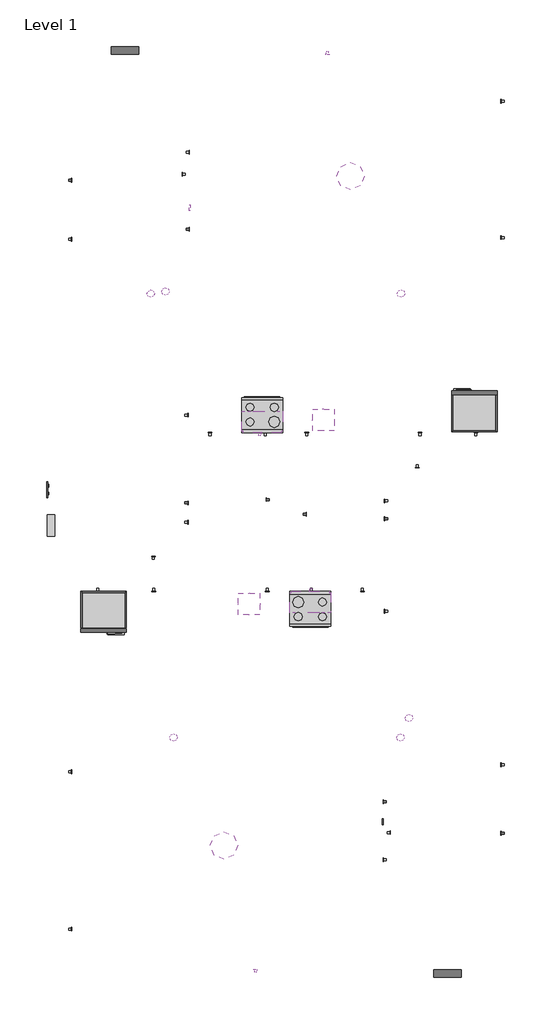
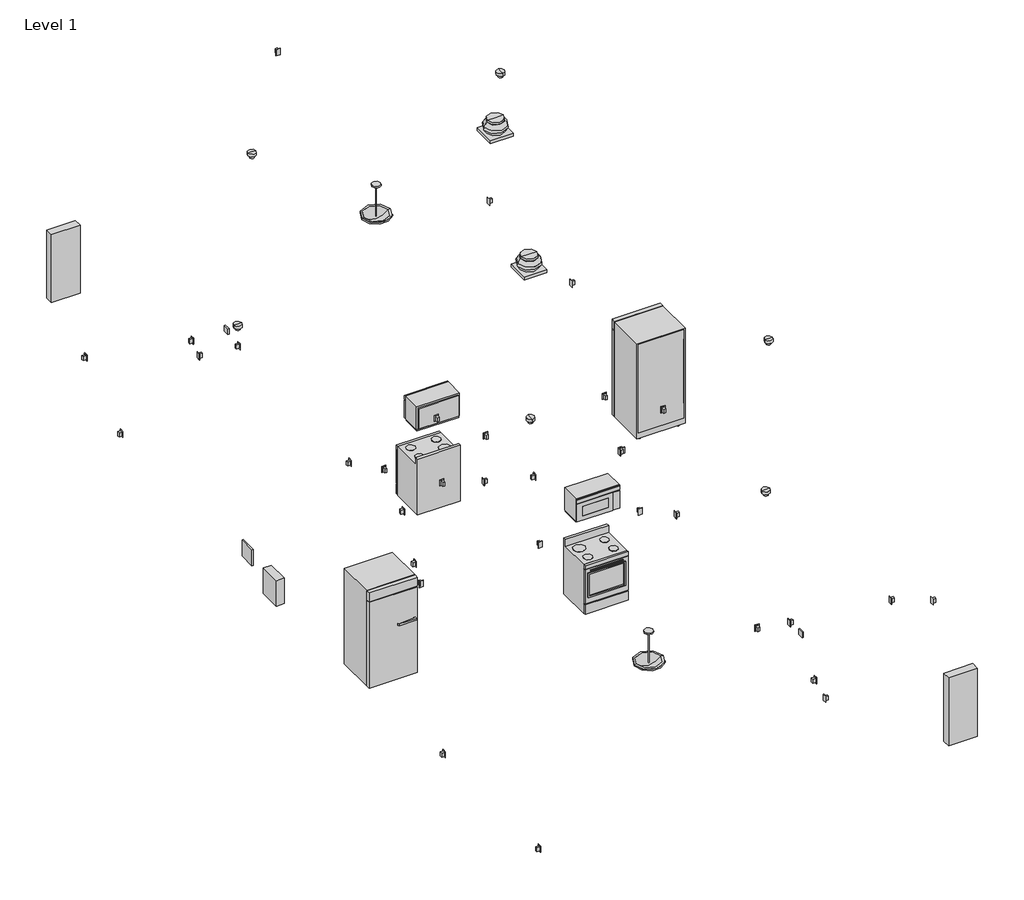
# One storey, incomplete: 30 outlets, 11 electric appliances, 8 light fixtures, 6 proxies, 3 electric distribution boards, 2 unitary equipment elements.
"""IFC4 building model written with IfcOpenShell, lengths in millimetres."""

from ifc_helpers import new_model, si_unit, origin, place, context, project, spatial, transform, mapped, element, save
from components import m_smoke_detector_smoke_detector_d0acf9f2, m_microwave_760_x_400_x_450mm_fc9afc05, m_range_760_x_650mm_27bf323b, m_refrigerator_850_x_760mm_174fd30e, m_telephone_outlet_367a9a66, m_telephone_terminal_board_ttb_300x300_b62f54d5, m_fire_alarm_control_panel_400x475_f39818d3, m_lighting_and_appliance_panelboard_208v_mlo_400_a_7f70f8aa, m_duplex_receptacle_duplex_receptacle_10251bba, m_pendant_light_hemisphere_150w_120v_8bc6cad5, m_thermostat_thermostat_b920d14f, unitary_equipment_b826a94b

model = new_model("IFC4")

# Units and contexts
model_context = context("Model", 3, world=origin())
ifc_project = project(units=[si_unit("LENGTHUNIT", "METRE", prefix="MILLI")], contexts=[model_context])

# Site, building, storey
site = spatial("IfcSite", under=ifc_project)
building = spatial("IfcBuilding", under=site)
storey = spatial("IfcBuildingStorey", under=building, Name="Level 1", Elevation=0.0)

# Proxies
placement = place(None, origin())
m_smoke_detector_smoke_detector_shape = m_smoke_detector_smoke_detector_d0acf9f2(model_context)
element("IfcBuildingElementProxy", 1, Name="M_Smoke Detector : Smoke Detector", ObjectType="M_Smoke Detector : Smoke Detector", at=placement, inside=storey, context=model_context, shape_type="MappedRepresentation", body=[
    mapped(m_smoke_detector_smoke_detector_shape, transform((6675.6090537, -12719.686144, 2600.0), x_axis=(1.0, 0.0, 0.0), y_axis=(0.0, -1.0, 0.0), z_axis=(0.0, 0.0, -1.0))),
])
element("IfcBuildingElementProxy", 2, Name="M_Smoke Detector : Smoke Detector", ObjectType="M_Smoke Detector : Smoke Detector", at=placement, inside=storey, context=model_context, shape_type="MappedRepresentation", body=[
    mapped(m_smoke_detector_smoke_detector_shape, transform((6515.1269473, -13083.9983456, 5700.0), x_axis=(-1.0, 0.0, 0.0), y_axis=(0.0, 1.0, 0.0), z_axis=(0.0, 0.0, -1.0))),
])
element("IfcBuildingElementProxy", 3, Name="M_Smoke Detector : Smoke Detector", ObjectType="M_Smoke Detector : Smoke Detector", at=placement, inside=storey, context=model_context, shape_type="MappedRepresentation", body=[
    mapped(m_smoke_detector_smoke_detector_shape, transform((2312.5080389, -13079.049566, 5700.0), x_axis=(0.0, 1.0, 0.0), y_axis=(1.0, 0.0, 0.0), z_axis=(0.0, 0.0, -1.0))),
])
element("IfcBuildingElementProxy", 4, Name="M_Smoke Detector : Smoke Detector", ObjectType="M_Smoke Detector : Smoke Detector", at=placement, inside=storey, context=model_context, shape_type="MappedRepresentation", body=[
    mapped(m_smoke_detector_smoke_detector_shape, transform((2160.7989347, -4815.2434784, 5700.0), x_axis=(1.0, 0.0, 0.0), y_axis=(0.0, -1.0, 0.0), z_axis=(0.0, 0.0, -1.0))),
])
element("IfcBuildingElementProxy", 5, Name="M_Smoke Detector : Smoke Detector", ObjectType="M_Smoke Detector : Smoke Detector", at=placement, inside=storey, context=model_context, shape_type="MappedRepresentation", body=[
    mapped(m_smoke_detector_smoke_detector_shape, transform((6529.2851038, -4853.0779496, 5700.0), x_axis=(0.0, -1.0, 0.0), y_axis=(-1.0, 0.0, 0.0), z_axis=(0.0, 0.0, -1.0))),
])
element("IfcBuildingElementProxy", 6, Name="M_Smoke Detector : Smoke Detector", ObjectType="M_Smoke Detector : Smoke Detector", at=placement, inside=storey, context=model_context, shape_type="MappedRepresentation", body=[
    mapped(m_smoke_detector_smoke_detector_shape, transform((1888.1128715, -4853.1375739, 2600.0), x_axis=(1.0, 0.0, 0.0), y_axis=(0.0, -1.0, 0.0), z_axis=(0.0, 0.0, -1.0))),
])

# Electric appliances
m_microwave_760_x_400_x_450mm_shape = m_microwave_760_x_400_x_450mm_fc9afc05(model_context)
element("IfcElectricAppliance", 7, ObjectType="M_Microwave : 760 x 400 x 450mm", at=placement, inside=storey, context=model_context, shape_type="MappedRepresentation", body=[
    mapped(m_microwave_760_x_400_x_450mm_shape, transform((4454.2928773, -7583.0805058, 635.6), x_axis=(-1.0, 0.0, 0.0), y_axis=(0.0, -1.0, 0.0), z_axis=(0.0, 0.0, 1.0))),
])
element("IfcElectricAppliance", 8, ObjectType="M_Microwave : 760 x 400 x 450mm", at=placement, inside=storey, context=model_context, shape_type="MappedRepresentation", body=[
    mapped(m_microwave_760_x_400_x_450mm_shape, transform((4345.7071227, -10216.9194942, 635.6), x_axis=(1.0, 0.0, 0.0), y_axis=(0.0, 1.0, 0.0), z_axis=(0.0, 0.0, 1.0))),
])
m_range_760_x_650mm_shape = m_range_760_x_650mm_27bf323b(model_context)
element("IfcElectricAppliance", 9, ObjectType="M_Range : 760 x 650mm", at=placement, inside=storey, context=model_context, shape_type="MappedRepresentation", body=[
    mapped(m_range_760_x_650mm_shape, transform((4334.0, -6780.0, 0.0), x_axis=(-1.0, 0.0, 0.0), y_axis=(0.0, -1.0, 0.0), z_axis=(0.0, 0.0, 1.0))),
])
element("IfcElectricAppliance", 10, ObjectType="M_Range : 760 x 650mm", at=placement, inside=storey, context=model_context, shape_type="MappedRepresentation", body=[
    mapped(m_range_760_x_650mm_shape, transform((4466.0, -11020.0, 0.0), x_axis=(1.0, 0.0, 0.0), y_axis=(0.0, 1.0, 0.0), z_axis=(0.0, 0.0, 1.0))),
])
m_refrigerator_850_x_760mm_shape = m_refrigerator_850_x_760mm_174fd30e(model_context)
element("IfcElectricAppliance", 11, ObjectType="M_Refrigerator : 850 x 760mm", at=placement, inside=storey, context=model_context, shape_type="MappedRepresentation", body=[
    mapped(m_refrigerator_850_x_760mm_shape, transform((1066.8937952, -10716.2150902, 0.0), x_axis=(1.0, 0.0, 0.0), y_axis=(0.0, 1.0, 0.0), z_axis=(0.0, 0.0, 1.0))),
])
element("IfcElectricAppliance", 12, ObjectType="M_Refrigerator : 850 x 760mm", at=placement, inside=storey, context=model_context, shape_type="MappedRepresentation", body=[
    mapped(m_refrigerator_850_x_760mm_shape, transform((7835.027305, -7069.3683128, 0.0), x_axis=(-0.9999999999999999, 0.0, 0.0), y_axis=(0.0, -0.9999999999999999, 0.0), z_axis=(0.0, 0.0, 1.0))),
])
m_telephone_outlet_shape = m_telephone_outlet_367a9a66(model_context)
element("IfcElectricAppliance", 13, ObjectType="M_Telephone Outlet : Telophone Outlet", at=placement, inside=storey, context=model_context, shape_type="MappedRepresentation", body=[
    mapped(m_telephone_outlet_shape, transform((6226.0, -10741.7079049, 1087.197635), x_axis=(0.0, -1.0, 0.0), y_axis=(0.0, 0.0, 1.0), z_axis=(-1.0, 0.0, 0.0))),
])
element("IfcElectricAppliance", 14, ObjectType="M_Telephone Outlet : Telophone Outlet", at=placement, inside=storey, context=model_context, shape_type="MappedRepresentation", body=[
    mapped(m_telephone_outlet_shape, transform((2574.0, -7102.9828312, 1136.4176898), x_axis=(0.0, 1.0, 0.0), y_axis=(0.0, 0.0, 1.0), z_axis=(1.0, 0.0, 0.0))),
])
element("IfcElectricAppliance", 15, ObjectType="M_Telephone Outlet : Telophone Outlet", at=placement, inside=storey, context=model_context, shape_type="MappedRepresentation", body=[
    mapped(m_telephone_outlet_shape, transform((5160.1954576, -417.0, 3847.9435036), x_axis=(1.0, 0.0, 0.0), y_axis=(0.0, 0.0, 1.0), z_axis=(0.0, -1.0, 0.0))),
])
element("IfcElectricAppliance", 16, ObjectType="M_Telephone Outlet : Telophone Outlet", at=placement, inside=storey, context=model_context, shape_type="MappedRepresentation", body=[
    mapped(m_telephone_outlet_shape, transform((3830.8739437, -17383.0, 3842.2238304), x_axis=(-1.0, 0.0, 0.0), y_axis=(0.0, 0.0, 1.0), z_axis=(0.0, 1.0, 0.0))),
])
m_telephone_terminal_board_ttb_300x300_shape = m_telephone_terminal_board_ttb_300x300_b62f54d5(model_context)
element("IfcElectricAppliance", 17, ObjectType="M_Telephone Terminal Board : TTB 300x300", at=placement, inside=storey, context=model_context, shape_type="MappedRepresentation", body=[
    mapped(m_telephone_terminal_board_ttb_300x300_shape, transform((0.0, -8485.6252683, 1200.0), x_axis=(0.0, -1.0, 0.0), y_axis=(0.0, 0.0, 1.0), z_axis=(-1.0, 0.0, 0.0))),
])

# Electric distribution boards
m_fire_alarm_control_panel_400x475_shape = m_fire_alarm_control_panel_400x475_f39818d3(model_context)
element("IfcElectricDistributionBoard", 18, ObjectType="M_Fire Alarm Control Panel : 400x475", at=placement, inside=storey, context=model_context, shape_type="MappedRepresentation", body=[
    mapped(m_fire_alarm_control_panel_400x475_shape, transform((0.0, -9153.578125, 1200.0), x_axis=(0.0, -1.0, 0.0), y_axis=(0.0, 0.0, 1.0), z_axis=(-1.0, 0.0, 0.0))),
])
m_lighting_and_appliance_panelboard_208v_mlo_400_a_shape = m_lighting_and_appliance_panelboard_208v_mlo_400_a_7f70f8aa(model_context)
element("IfcElectricDistributionBoard", 19, ObjectType="M_Lighting and Appliance Panelboard - 208V MLO : 400 A", at=placement, inside=storey, context=model_context, shape_type="MappedRepresentation", body=[
    mapped(m_lighting_and_appliance_panelboard_208v_mlo_400_a_shape, transform((7387.2656133, -17383.0, 1619.1), x_axis=(-1.0, 0.0, 0.0), y_axis=(0.0, 0.0, 1.0), z_axis=(0.0, 1.0, 0.0))),
])
element("IfcElectricDistributionBoard", 20, ObjectType="M_Lighting and Appliance Panelboard - 208V MLO : 400 A", at=placement, inside=storey, context=model_context, shape_type="MappedRepresentation", body=[
    mapped(m_lighting_and_appliance_panelboard_208v_mlo_400_a_shape, transform((1410.3151068, -417.0, 1619.1), x_axis=(1.0, 0.0, 0.0), y_axis=(0.0, 0.0, 1.0), z_axis=(0.0, -1.0, 0.0))),
])

# Light fixtures
m_duplex_receptacle_duplex_receptacle_shape = m_duplex_receptacle_duplex_receptacle_10251bba(model_context)
element("IfcLightFixture", 21, ObjectType="M_Lighting Switches : Single Pole", at=placement, inside=storey, context=model_context, shape_type="MappedRepresentation", body=[
    mapped(m_duplex_receptacle_duplex_receptacle_shape, transform((8383.0, -14857.2669965, 1220.0), x_axis=(0.0, -1.0, 0.0), y_axis=(0.0, 0.0, 1.0), z_axis=(-1.0, 0.0, 0.0))),
])
element("IfcLightFixture", 22, ObjectType="M_Lighting Switches : Single Pole", at=placement, inside=storey, context=model_context, shape_type="MappedRepresentation", body=[
    mapped(m_duplex_receptacle_duplex_receptacle_shape, transform((6200.0, -14270.2255305, 1220.0), x_axis=(0.0, -1.0, 0.0), y_axis=(0.0, 0.0, 1.0), z_axis=(-1.0, 0.0, 0.0))),
])
element("IfcLightFixture", 23, ObjectType="M_Lighting Switches : Single Pole", at=placement, inside=storey, context=model_context, shape_type="MappedRepresentation", body=[
    mapped(m_duplex_receptacle_duplex_receptacle_shape, transform((6226.0, -9023.3068829, 1220.0), x_axis=(0.0, -1.0, 0.0), y_axis=(0.0, 0.0, 1.0), z_axis=(-1.0, 0.0, 0.0))),
])
element("IfcLightFixture", 24, ObjectType="M_Lighting Switches : Single Pole", at=placement, inside=storey, context=model_context, shape_type="MappedRepresentation", body=[
    mapped(m_duplex_receptacle_duplex_receptacle_shape, transform((2574.0, -8731.8114025, 1220.0), x_axis=(0.0, 1.0, 0.0), y_axis=(0.0, 0.0, 1.0), z_axis=(1.0, 0.0, 0.0))),
])
element("IfcLightFixture", 25, ObjectType="M_Lighting Switches : Single Pole", at=placement, inside=storey, context=model_context, shape_type="MappedRepresentation", body=[
    mapped(m_duplex_receptacle_duplex_receptacle_shape, transform((2600.0, -3656.3606846, 1220.0), x_axis=(0.0, 1.0, 0.0), y_axis=(0.0, 0.0, 1.0), z_axis=(1.0, 0.0, 0.0))),
])
element("IfcLightFixture", 26, ObjectType="M_Lighting Switches : Single Pole", at=placement, inside=storey, context=model_context, shape_type="MappedRepresentation", body=[
    mapped(m_duplex_receptacle_duplex_receptacle_shape, transform((417.0, -2747.5806574, 1220.0), x_axis=(0.0, 1.0, 0.0), y_axis=(0.0, 0.0, 1.0), z_axis=(1.0, 0.0, 0.0))),
])
m_pendant_light_hemisphere_150w_120v_shape = m_pendant_light_hemisphere_150w_120v_8bc6cad5(model_context)
element("IfcLightFixture", 27, ObjectType="M_Pendant Light - Hemisphere : 150W - 120V", at=placement, inside=storey, context=model_context, shape_type="MappedRepresentation", body=[
    mapped(m_pendant_light_hemisphere_150w_120v_shape, transform((3243.6743697, -15082.4826647, 2600.0), x_axis=(1.0, 0.0, 0.0), y_axis=(0.0, -1.0, 0.0), z_axis=(0.0, 0.0, -1.0))),
])
element("IfcLightFixture", 28, ObjectType="M_Pendant Light - Hemisphere : 150W - 120V", at=placement, inside=storey, context=model_context, shape_type="MappedRepresentation", body=[
    mapped(m_pendant_light_hemisphere_150w_120v_shape, transform((5590.9610174, -2674.5, 2600.0), x_axis=(1.0, 0.0, 0.0), y_axis=(0.0, -1.0, 0.0), z_axis=(0.0, 0.0, -1.0))),
])

# Outlets
element("IfcOutlet", 29, ObjectType="M_Duplex Receptacle : Duplex Receptacle", at=placement, inside=storey, context=model_context, shape_type="MappedRepresentation", body=[
    mapped(m_duplex_receptacle_duplex_receptacle_shape, transform((7916.4209315, -7430.0, 458.0), x_axis=(-1.0, 0.0, 0.0), y_axis=(0.0, 0.0, 1.0), z_axis=(0.0, 1.0, 0.0))),
])
element("IfcOutlet", 30, ObjectType="M_Duplex Receptacle : Duplex Receptacle", at=placement, inside=storey, context=model_context, shape_type="MappedRepresentation", body=[
    mapped(m_duplex_receptacle_duplex_receptacle_shape, transform((2600.0, -2230.7135279, 458.0), x_axis=(0.0, 1.0, 0.0), y_axis=(0.0, 0.0, 1.0), z_axis=(1.0, 0.0, 0.0))),
])
element("IfcOutlet", 31, ObjectType="M_Duplex Receptacle : Duplex Receptacle", at=placement, inside=storey, context=model_context, shape_type="MappedRepresentation", body=[
    mapped(m_duplex_receptacle_duplex_receptacle_shape, transform((8383.0, -1284.236487, 458.0), x_axis=(0.0, -1.0, 0.0), y_axis=(0.0, 0.0, 1.0), z_axis=(-1.0, 0.0, 0.0))),
])
element("IfcOutlet", 32, ObjectType="M_Duplex Receptacle : Duplex Receptacle", at=placement, inside=storey, context=model_context, shape_type="MappedRepresentation", body=[
    mapped(m_duplex_receptacle_duplex_receptacle_shape, transform((8383.0, -3812.4970756, 458.0), x_axis=(0.0, -1.0, 0.0), y_axis=(0.0, 0.0, 1.0), z_axis=(-1.0, 0.0, 0.0))),
])
element("IfcOutlet", 33, ObjectType="M_Duplex Receptacle : Duplex Receptacle", at=placement, inside=storey, context=model_context, shape_type="MappedRepresentation", body=[
    mapped(m_duplex_receptacle_duplex_receptacle_shape, transform((2476.0, -2638.0033432, 458.0), x_axis=(0.0, -1.0, 0.0), y_axis=(0.0, 0.0, 1.0), z_axis=(-1.0, 0.0, 0.0))),
])
element("IfcOutlet", 34, ObjectType="M_Duplex Receptacle : Duplex Receptacle", at=placement, inside=storey, context=model_context, shape_type="MappedRepresentation", body=[
    mapped(m_duplex_receptacle_duplex_receptacle_shape, transform((417.0, -3844.4076138, 458.0), x_axis=(0.0, 1.0, 0.0), y_axis=(0.0, 0.0, 1.0), z_axis=(1.0, 0.0, 0.0))),
])
element("IfcOutlet", 35, ObjectType="M_Duplex Receptacle : Duplex Receptacle", at=placement, inside=storey, context=model_context, shape_type="MappedRepresentation", body=[
    mapped(m_duplex_receptacle_duplex_receptacle_shape, transform((4030.0, -8669.0657089, 1220.0), x_axis=(0.0, -1.0, 0.0), y_axis=(0.0, 0.0, 1.0), z_axis=(-1.0, 0.0, 0.0))),
])
element("IfcOutlet", 36, ObjectType="M_Duplex Receptacle : Duplex Receptacle", at=placement, inside=storey, context=model_context, shape_type="MappedRepresentation", body=[
    mapped(m_duplex_receptacle_duplex_receptacle_shape, transform((2574.0, -9091.1706977, 458.0), x_axis=(0.0, 1.0, 0.0), y_axis=(0.0, 0.0, 1.0), z_axis=(1.0, 0.0, 0.0))),
])
element("IfcOutlet", 37, ObjectType="M_Duplex Receptacle : Duplex Receptacle", at=placement, inside=storey, context=model_context, shape_type="MappedRepresentation", body=[
    mapped(m_duplex_receptacle_duplex_receptacle_shape, transform((4770.0, -8942.2470451, 1220.0), x_axis=(0.0, 1.0, 0.0), y_axis=(0.0, 0.0, 1.0), z_axis=(1.0, 0.0, 0.0))),
])
element("IfcOutlet", 38, ObjectType="M_Duplex Receptacle : Duplex Receptacle", at=placement, inside=storey, context=model_context, shape_type="MappedRepresentation", body=[
    mapped(m_duplex_receptacle_duplex_receptacle_shape, transform((6226.0, -8695.3375633, 458.0), x_axis=(0.0, -1.0, 0.0), y_axis=(0.0, 0.0, 1.0), z_axis=(-1.0, 0.0, 0.0))),
])
element("IfcOutlet", 39, ObjectType="M_Duplex Receptacle : Duplex Receptacle", at=placement, inside=storey, context=model_context, shape_type="MappedRepresentation", body=[
    mapped(m_duplex_receptacle_duplex_receptacle_shape, transform((6879.9675606, -7430.0, 1068.0), x_axis=(-1.0, 0.0, 0.0), y_axis=(0.0, 0.0, 1.0), z_axis=(0.0, 1.0, 0.0))),
])
element("IfcOutlet", 40, ObjectType="M_Duplex Receptacle : Duplex Receptacle", at=placement, inside=storey, context=model_context, shape_type="MappedRepresentation", body=[
    mapped(m_duplex_receptacle_duplex_receptacle_shape, transform((2986.1236679, -7430.0, 1068.0), x_axis=(-1.0, 0.0, 0.0), y_axis=(0.0, 0.0, 1.0), z_axis=(0.0, 1.0, 0.0))),
])
element("IfcOutlet", 41, ObjectType="M_Duplex Receptacle : Duplex Receptacle", at=placement, inside=storey, context=model_context, shape_type="MappedRepresentation", body=[
    mapped(m_duplex_receptacle_duplex_receptacle_shape, transform((1945.3810776, -10370.0, 1068.0), x_axis=(1.0, 0.0, 0.0), y_axis=(0.0, 0.0, 1.0), z_axis=(0.0, -1.0, 0.0))),
])
element("IfcOutlet", 42, ObjectType="M_Duplex Receptacle : Duplex Receptacle", at=placement, inside=storey, context=model_context, shape_type="MappedRepresentation", body=[
    mapped(m_duplex_receptacle_duplex_receptacle_shape, transform((5813.0239015, -10370.0, 1068.0), x_axis=(1.0, 0.0, 0.0), y_axis=(0.0, 0.0, 1.0), z_axis=(0.0, -1.0, 0.0))),
])
element("IfcOutlet", 43, ObjectType="M_Duplex Receptacle : Duplex Receptacle", at=placement, inside=storey, context=model_context, shape_type="MappedRepresentation", body=[
    mapped(m_duplex_receptacle_duplex_receptacle_shape, transform((906.793883, -10370.0, 458.0), x_axis=(1.0, 0.0, 0.0), y_axis=(0.0, 0.0, 1.0), z_axis=(0.0, -1.0, 0.0))),
])
element("IfcOutlet", 44, ObjectType="M_Duplex Receptacle : Duplex Receptacle", at=placement, inside=storey, context=model_context, shape_type="MappedRepresentation", body=[
    mapped(m_duplex_receptacle_duplex_receptacle_shape, transform((417.0, -13715.0971763, 458.0), x_axis=(0.0, 1.0, 0.0), y_axis=(0.0, 0.0, 1.0), z_axis=(1.0, 0.0, 0.0))),
])
element("IfcOutlet", 45, ObjectType="M_Duplex Receptacle : Duplex Receptacle", at=placement, inside=storey, context=model_context, shape_type="MappedRepresentation", body=[
    mapped(m_duplex_receptacle_duplex_receptacle_shape, transform((417.0, -16632.3209324, 458.0), x_axis=(0.0, 1.0, 0.0), y_axis=(0.0, 0.0, 1.0), z_axis=(1.0, 0.0, 0.0))),
])
element("IfcOutlet", 46, ObjectType="M_Duplex Receptacle : Duplex Receptacle", at=placement, inside=storey, context=model_context, shape_type="MappedRepresentation", body=[
    mapped(m_duplex_receptacle_duplex_receptacle_shape, transform((6200.0, -15348.7424797, 458.0), x_axis=(0.0, -1.0, 0.0), y_axis=(0.0, 0.0, 1.0), z_axis=(-1.0, 0.0, 0.0))),
])
element("IfcOutlet", 47, ObjectType="M_Duplex Receptacle : Duplex Receptacle", at=placement, inside=storey, context=model_context, shape_type="MappedRepresentation", body=[
    mapped(m_duplex_receptacle_duplex_receptacle_shape, transform((6324.0, -14843.090362, 458.0), x_axis=(0.0, 1.0, 0.0), y_axis=(0.0, 0.0, 1.0), z_axis=(1.0, 0.0, 0.0))),
])
element("IfcOutlet", 48, ObjectType="M_Duplex Receptacle : Duplex Receptacle", at=placement, inside=storey, context=model_context, shape_type="MappedRepresentation", body=[
    mapped(m_duplex_receptacle_duplex_receptacle_shape, transform((8383.0, -13585.4427872, 458.0), x_axis=(0.0, -1.0, 0.0), y_axis=(0.0, 0.0, 1.0), z_axis=(-1.0, 0.0, 0.0))),
])
element("IfcOutlet", 49, ObjectType="M_Duplex Receptacle : Duplex Receptacle", at=placement, inside=storey, context=model_context, shape_type="MappedRepresentation", body=[
    mapped(m_duplex_receptacle_duplex_receptacle_shape, transform((6830.4744574, -8075.0, 458.0), x_axis=(1.0, 0.0, 0.0), y_axis=(0.0, 0.0, 1.0), z_axis=(0.0, -1.0, 0.0))),
])
element("IfcOutlet", 50, ObjectType="M_Duplex Receptacle : Duplex Receptacle", at=placement, inside=storey, context=model_context, shape_type="MappedRepresentation", body=[
    mapped(m_duplex_receptacle_duplex_receptacle_shape, transform((1937.7919437, -9725.0, 458.0), x_axis=(-1.0, 0.0, 0.0), y_axis=(0.0, 0.0, 1.0), z_axis=(0.0, 1.0, 0.0))),
])
element("IfcOutlet", 51, ObjectType="M_Duplex Receptacle : Duplex Receptacle", at=placement, inside=storey, context=model_context, shape_type="MappedRepresentation", body=[
    mapped(m_duplex_receptacle_duplex_receptacle_shape, transform((4010.074245, -7430.0, 458.0), x_axis=(-1.0, 0.0, 0.0), y_axis=(0.0, 0.0, 1.0), z_axis=(0.0, 1.0, 0.0))),
])
element("IfcOutlet", 52, ObjectType="M_Duplex Receptacle : Duplex Receptacle", at=placement, inside=storey, context=model_context, shape_type="MappedRepresentation", body=[
    mapped(m_duplex_receptacle_duplex_receptacle_shape, transform((4861.4514946, -10370.0, 458.0), x_axis=(1.0, 0.0, 0.0), y_axis=(0.0, 0.0, 1.0), z_axis=(0.0, -1.0, 0.0))),
])
element("IfcOutlet", 53, ObjectType="M_Duplex Receptacle : Duplex Receptacle", at=placement, inside=storey, context=model_context, shape_type="MappedRepresentation", body=[
    mapped(m_duplex_receptacle_duplex_receptacle_shape, transform((4045.3810776, -10370.0, 1068.0), x_axis=(1.0, 0.0, 0.0), y_axis=(0.0, 0.0, 1.0), z_axis=(0.0, -1.0, 0.0))),
])
element("IfcOutlet", 54, ObjectType="M_Duplex Receptacle : Duplex Receptacle", at=placement, inside=storey, context=model_context, shape_type="MappedRepresentation", body=[
    mapped(m_duplex_receptacle_duplex_receptacle_shape, transform((4779.9675606, -7430.0, 1068.0), x_axis=(-1.0, 0.0, 0.0), y_axis=(0.0, 0.0, 1.0), z_axis=(0.0, 1.0, 0.0))),
])
element("IfcOutlet", 55, ObjectType="M_Duplex Receptacle : Duplex Receptacle", at=placement, inside=storey, context=model_context, shape_type="MappedRepresentation", body=[
    mapped(m_duplex_receptacle_duplex_receptacle_shape, transform((4857.887757, -10370.0, 1700.0), x_axis=(1.0, 0.0, 0.0), y_axis=(0.0, 0.0, 1.0), z_axis=(0.0, -1.0, 0.0))),
])
element("IfcOutlet", 56, ObjectType="M_Duplex Receptacle : Duplex Receptacle", at=placement, inside=storey, context=model_context, shape_type="MappedRepresentation", body=[
    mapped(m_duplex_receptacle_duplex_receptacle_shape, transform((3912.6714374, -7430.0, 1700.0), x_axis=(-1.0, 0.0, 0.0), y_axis=(0.0, 0.0, 1.0), z_axis=(0.0, 1.0, 0.0))),
])
m_thermostat_thermostat_shape = m_thermostat_thermostat_b920d14f(model_context)
element("IfcOutlet", 57, ObjectType="M_Thermostat : Thermostat", at=placement, inside=storey, context=model_context, shape_type="MappedRepresentation", body=[
    mapped(m_thermostat_thermostat_shape, transform((2600.0, -3260.9013382, 1323.8163534), x_axis=(0.0, 1.0, 0.0), y_axis=(0.0, 0.0, 1.0), z_axis=(1.0, 0.0, 0.0))),
])
element("IfcOutlet", 58, ObjectType="M_Thermostat : Thermostat", at=placement, inside=storey, context=model_context, shape_type="MappedRepresentation", body=[
    mapped(m_thermostat_thermostat_shape, transform((6200.0, -14643.4215442, 1301.488211), x_axis=(0.0, -1.0, 0.0), y_axis=(0.0, 0.0, 1.0), z_axis=(-1.0, 0.0, 0.0))),
])

# Unitary equipment
unitary_equipment_shape = unitary_equipment_b826a94b(model_context)
element("IfcUnitaryEquipment", 59, ObjectType="M_Centrifugal Fan -  Rooftop  - Upblast : 991-1905 LPS", at=placement, inside=storey, context=model_context, shape_type="MappedRepresentation", body=[
    mapped(unitary_equipment_shape, transform((3712.5361148, -10606.5183948, 6457.0), x_axis=(1.0, 0.0, 0.0), y_axis=(0.0, 1.0, 0.0), z_axis=(0.0, 0.0, 1.0))),
])
element("IfcUnitaryEquipment", 60, ObjectType="M_Centrifugal Fan -  Rooftop  - Upblast : 991-1905 LPS", at=placement, inside=storey, context=model_context, shape_type="MappedRepresentation", body=[
    mapped(unitary_equipment_shape, transform((5087.4638852, -7193.4816052, 6457.0), x_axis=(1.0, 0.0, 0.0), y_axis=(0.0, 1.0, 0.0), z_axis=(0.0, 0.0, 1.0))),
])

save(model, "model.ifc")
